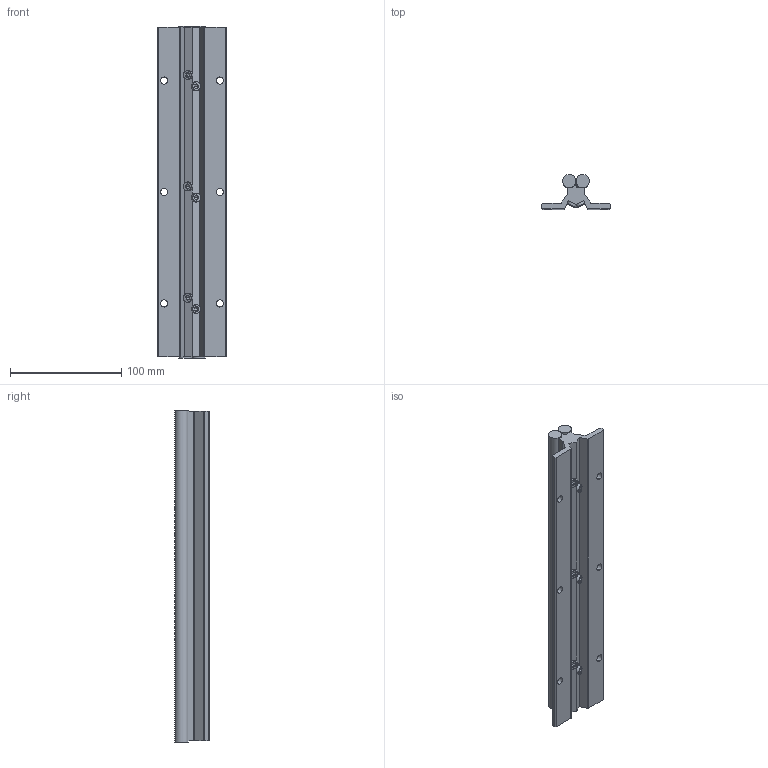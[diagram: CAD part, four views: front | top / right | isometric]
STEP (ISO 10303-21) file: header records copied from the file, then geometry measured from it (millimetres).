
FILE_DESCRIPTION (( 'STEP AP203' ), '1' );
FILE_NAME ('LF 2_-_LF 2 298 mm lang.step', '2005-06-03T06:14:46', ( ' ' ), ( ' ' ), 'SwSTEP 2.0', 'SolidWorks 2004231', '' );
FILE_SCHEMA (( 'CONFIG_CONTROL_DESIGN' ));
Length unit declared in the file: millimetre
Products named in the file (1): LF 2_-_LF 2  298 mm lang
Bounding box: 62 x 31 x 298 mm (x, y, z)
Volume: 206599.8 mm3; surface area: 68252.5 mm2
Topology: 1 solids, 1 shells, 191 faces, 508 edges, 312 vertices
Faces by surface type: cylinder 88, plane 79, cone 12, torus 12
Entity records: 6023 total; most frequent: CARTESIAN_POINT 1480, ORIENTED_EDGE 992, DIRECTION 868, EDGE_CURVE 496, VERTEX_POINT 312, AXIS2_PLACEMENT_3D 300, LINE 268, VECTOR 268
